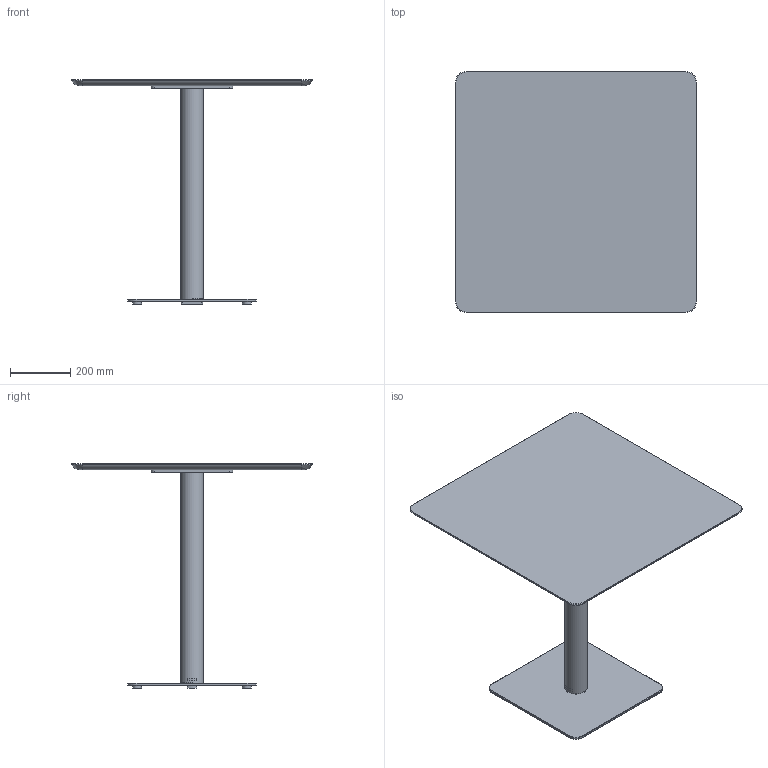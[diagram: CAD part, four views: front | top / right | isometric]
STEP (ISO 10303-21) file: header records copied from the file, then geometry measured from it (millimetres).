
FILE_DESCRIPTION( ('This file contains a STEP AP42 implementation' ,'as created by ZW3D STEP Interface translator.') ,'2;1' );
FILE_NAME( 'Henri - B_Carré - F3 - M3 - 800 x 800 x 750.stp' ,'24 912.171034', (''), ('ZWCAD Software Co.'), 'Version 1.0', 'ZW3D to STEP translator', '' );
FILE_SCHEMA(('AUTOMOTIVE_DESIGN { 1 0 10303 214 1 1 1 1 }'));
Length unit declared in the file: millimetre
Products named in the file (14): 0; PIED BISTROT PARAMETRIQUE_; COLONNE ACIER Ø76 V.02_; TUB-D076-02_; PLA-R76B-01_; CROIX ACIER 370 V.02_; CRX-X370-02_; SOCLE ACIER L 425x425 V.02_; SCL-R425-02_; PLA-R30A-01_; PLA-R30A-01; WUERTH 0276063020 Euro-screw 6.3x2 Verzinkt_; PLATEAU BISTROT PARAMETRIQUE_; insert_m6_13_
Assembly tree (22 placements, depth 3):
  0
  PIED BISTROT PARAMETRIQUE_
    COLONNE ACIER Ø76 V.02_
      TUB-D076-02_
      PLA-R76B-01_  x2
    CROIX ACIER 370 V.02_
      CRX-X370-02_
    SOCLE ACIER L 425x425 V.02_
      SCL-R425-02_
      PLA-R30A-01_
      PLA-R30A-01  x3
    WUERTH 0276063020 Euro-screw 6.3x2 Verzinkt_
    PLATEAU BISTROT PARAMETRIQUE_
      insert_m6_13_  x8
Bounding box: 800 x 800 x 744 mm (x, y, z)
Volume: 14674795.5 mm3; surface area: 2195699.1 mm2
Topology: 19 solids, 19 shells, 537 faces, 1310 edges, 822 vertices
Faces by surface type: plane 258, bspline 125, cylinder 102, cone 51, torus 1
Full cylindrical faces by diameter (mm): 4.88 x1, 6 x8, 6.3 x1, 8 x45, 12 x2, 14 x2, 30 x4, 72 x1, 76 x1
Entity records: 12352 total; most frequent: CARTESIAN_POINT 3446, ORIENTED_EDGE 1624, DIRECTION 1519, EDGE_CURVE 812, VERTEX_POINT 518, AXIS2_PLACEMENT_3D 507, VECTOR 505, LINE 505
